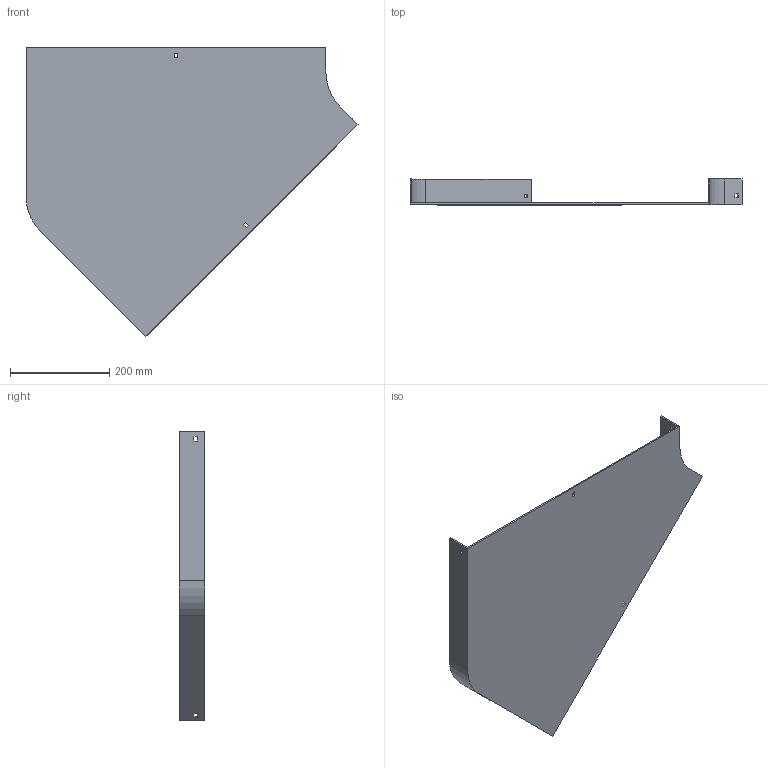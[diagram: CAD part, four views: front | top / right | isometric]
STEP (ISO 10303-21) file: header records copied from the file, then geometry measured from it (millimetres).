
FILE_DESCRIPTION (( 'STEP AP214' ), '1' );
FILE_NAME ('11B1B600.step', '2025-02-21T09:37:53', ( '' ), ( '' ), 'SwSTEP 2.0', 'SolidWorks 2023', '' );
FILE_SCHEMA (( 'AUTOMOTIVE_DESIGN' ));
Length unit declared in the file: millimetre
Products named in the file (1): 11B1B600
Bounding box: 668.64 x 52 x 583.16 mm (x, y, z)
Volume: 1059583.1 mm3; surface area: 614077.2 mm2
Topology: 1 solids, 1 shells, 42 faces, 120 edges, 80 vertices
Faces by surface type: plane 38, cylinder 4
Entity records: 1399 total; most frequent: CARTESIAN_POINT 243, ORIENTED_EDGE 240, DIRECTION 214, EDGE_CURVE 120, VECTOR 112, LINE 112, VERTEX_POINT 80, EDGE_LOOP 54
